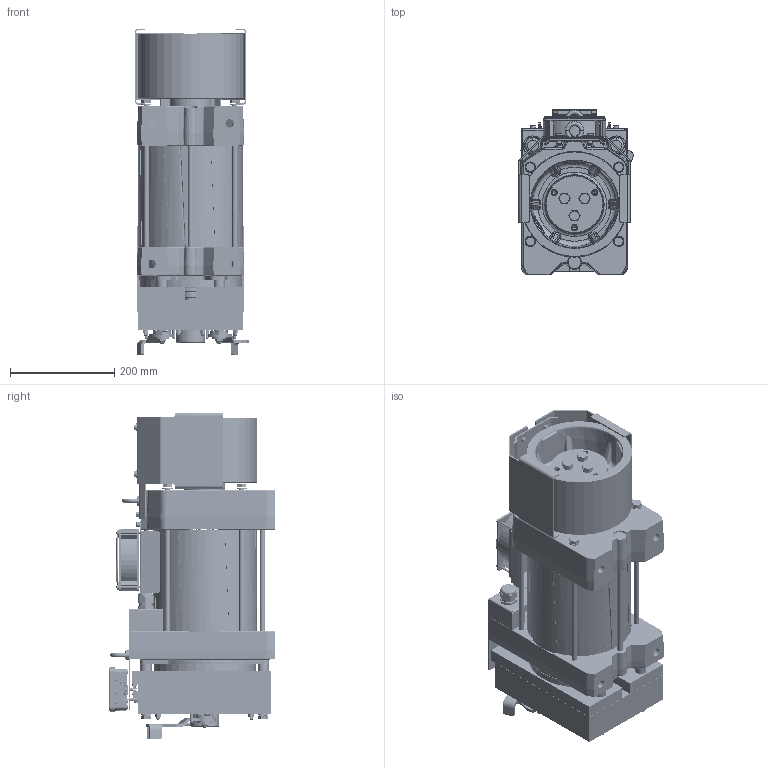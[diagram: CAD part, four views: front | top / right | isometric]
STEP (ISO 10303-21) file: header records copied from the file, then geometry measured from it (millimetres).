
FILE_DESCRIPTION((''),'2;1');
FILE_NAME('00363793_ASM','2020-06-05T',('furlanis'),('Sicor spa'),'CREO PARAMETRIC BY PTC INC, 2017170','CREO PARAMETRIC BY PTC INC, 2017170','');
FILE_SCHEMA(('CONFIG_CONTROL_DESIGN'));
Products named in the file (13): SW07; _200_125; 00341692_1; M6_FTT_M_1; 00341698_ASM_1_ASM; 00341694_1; 00336564_1; 00341699_ASM_1_ASM; 200_ASM; 00073486; GROWER_M12_GRO0002; TEM12X45_VIT0222; 00363793_ASM
Assembly tree (25 placements, depth 5):
  00363793_ASM
    SW07
    _200_125
    200_ASM
      00341699_ASM_1_ASM
        00341698_ASM_1_ASM
          00341692_1
          M6_FTT_M_1  x4
        00341694_1  x2
        00336564_1  x6
    00073486
    GROWER_M12_GRO0002  x3
    TEM12X45_VIT0222  x3
Bounding box: 219.66 x 318.5 x 627.68 mm (x, y, z)
Volume: 2597085.5 mm3; surface area: 1986763.8 mm2
Topology: 21 solids, 326 shells, 5363 faces, 15964 edges, 10660 vertices
Faces by surface type: cylinder 1690, plane 1484, bspline 1123, torus 567, cone 447, sphere 50, revolution 2
Entity records: 285224 total; most frequent: CARTESIAN_POINT 161589, ORIENTED_EDGE 25130, DIRECTION 23204, EDGE_CURVE 15247, VERTEX_POINT 10228, AXIS2_PLACEMENT_3D 8702, VECTOR 5798, LINE 5798
